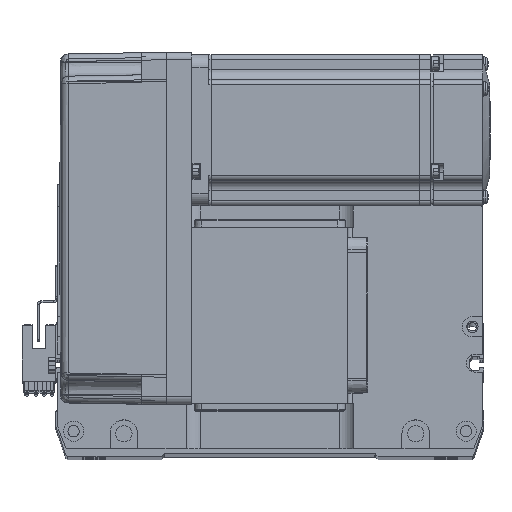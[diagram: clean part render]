
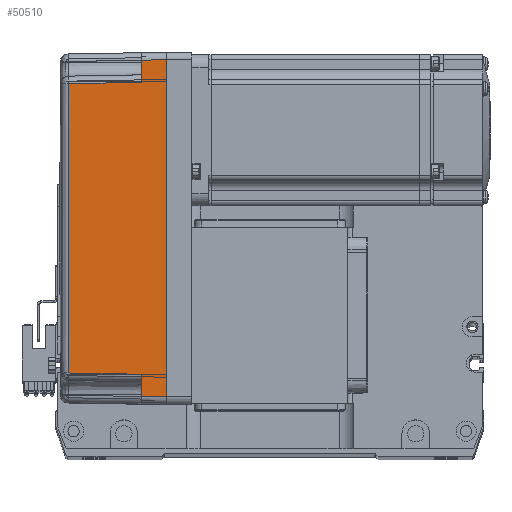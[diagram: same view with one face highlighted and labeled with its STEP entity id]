
A CAD part, top view. The second image highlights one B-rep face of the part: STEP entity #50510.
In plain terms, the highlighted planar face has unit normal (-0.018, 0, 1) as drawn and (0, 1, 0.017) by its records, which use the part's own axes.
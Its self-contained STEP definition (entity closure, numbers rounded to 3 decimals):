
#58 = AXIS2_PLACEMENT_3D ( 'NONE', #12615, #13041, #37039 ) ;
#3185 = VECTOR ( 'NONE', #48105, 1000. ) ;
#4732 = ORIENTED_EDGE ( 'NONE', *, *, #22861, .T. ) ;
#5660 = CARTESIAN_POINT ( 'NONE',  ( 0., 36., 0. ) ) ;
#7235 = CARTESIAN_POINT ( 'NONE',  ( 67., 36., 0. ) ) ;
#7566 = EDGE_CURVE ( 'NONE', #50486, #42011, #24597, .T. ) ;
#8259 = VECTOR ( 'NONE', #19550, 1000. ) ;
#8613 = VERTEX_POINT ( 'NONE', #23812 ) ;
#9046 = LINE ( 'NONE', #57995, #8259 ) ;
#10376 = EDGE_CURVE ( 'NONE', #46458, #50486, #25945, .T. ) ;
#10467 = EDGE_CURVE ( 'NONE', #8613, #59792, #24469, .T. ) ;
#10768 = VERTEX_POINT ( 'NONE', #13344 ) ;
#12140 = VECTOR ( 'NONE', #54193, 1000. ) ;
#12615 = CARTESIAN_POINT ( 'NONE',  ( 70., 36., 0. ) ) ;
#13041 = DIRECTION ( 'NONE',  ( 0., 1., 0.017 ) ) ;
#13344 = CARTESIAN_POINT ( 'NONE',  ( 58., 35.825, 10. ) ) ;
#13990 = EDGE_CURVE ( 'NONE', #10768, #47077, #33847, .T. ) ;
#19188 = ORIENTED_EDGE ( 'NONE', *, *, #10376, .T. ) ;
#19550 = DIRECTION ( 'NONE',  ( 0.017, 0.017, -1. ) ) ;
#20210 = CARTESIAN_POINT ( 'NONE',  ( 57.495, 35.32, 38.985 ) ) ;
#20670 = CARTESIAN_POINT ( 'NONE',  ( 70., 35.825, 10. ) ) ;
#21000 = LINE ( 'NONE', #41825, #48691 ) ;
#22754 = DIRECTION ( 'NONE',  ( -0.017, -0.017, 1. ) ) ;
#22861 = EDGE_CURVE ( 'NONE', #42011, #10768, #9046, .T. ) ;
#23812 = CARTESIAN_POINT ( 'NONE',  ( -67., 36., 0. ) ) ;
#24469 = LINE ( 'NONE', #5660, #62121 ) ;
#24597 = B_SPLINE_CURVE_WITH_KNOTS ( 'NONE', 3,
 ( #36205, #45834, #55351, #50677 ),
 .UNSPECIFIED., .F., .F.,
 ( 4, 4 ),
 ( 0., 1. ),
 .UNSPECIFIED. ) ;
#24699 = CARTESIAN_POINT ( 'NONE',  ( 66.826, 35.825, 10. ) ) ;
#25074 = EDGE_LOOP ( 'NONE', ( #61209, #31118, #19188, #35662, #4732, #37002, #34031, #41957 ) ) ;
#25945 = LINE ( 'NONE', #52933, #48500 ) ;
#26420 = LINE ( 'NONE', #35098, #12140 ) ;
#29280 = EDGE_CURVE ( 'NONE', #8613, #35644, #35478, .T. ) ;
#29604 = CARTESIAN_POINT ( 'NONE',  ( -67., 36., 0. ) ) ;
#29633 = DIRECTION ( 'NONE',  ( 1., 0., 0. ) ) ;
#31118 = ORIENTED_EDGE ( 'NONE', *, *, #34661, .T. ) ;
#31482 = CARTESIAN_POINT ( 'NONE',  ( -58., 35.825, 10. ) ) ;
#31556 = VECTOR ( 'NONE', #29633, 1000. ) ;
#31738 = CARTESIAN_POINT ( 'NONE',  ( -57.495, 35.32, 38.985 ) ) ;
#32049 = EDGE_CURVE ( 'NONE', #59792, #47077, #21000, .T. ) ;
#33847 = LINE ( 'NONE', #20670, #31556 ) ;
#34031 = ORIENTED_EDGE ( 'NONE', *, *, #32049, .F. ) ;
#34661 = EDGE_CURVE ( 'NONE', #35644, #46458, #26420, .T. ) ;
#35098 = CARTESIAN_POINT ( 'NONE',  ( 70., 35.825, 10. ) ) ;
#35478 = LINE ( 'NONE', #29604, #3185 ) ;
#35644 = VERTEX_POINT ( 'NONE', #53019 ) ;
#35662 = ORIENTED_EDGE ( 'NONE', *, *, #7566, .T. ) ;
#36205 = CARTESIAN_POINT ( 'NONE',  ( -57.495, 35.32, 38.985 ) ) ;
#37002 = ORIENTED_EDGE ( 'NONE', *, *, #13990, .T. ) ;
#37039 = DIRECTION ( 'NONE',  ( 0., -0.017, 1. ) ) ;
#41825 = CARTESIAN_POINT ( 'NONE',  ( 67.001, 36.001, -0.052 ) ) ;
#41957 = ORIENTED_EDGE ( 'NONE', *, *, #10467, .F. ) ;
#42011 = VERTEX_POINT ( 'NONE', #20210 ) ;
#45834 = CARTESIAN_POINT ( 'NONE',  ( -19.165, 35.316, 39.181 ) ) ;
#46458 = VERTEX_POINT ( 'NONE', #31482 ) ;
#46653 = PLANE ( 'NONE',  #58 ) ;
#47077 = VERTEX_POINT ( 'NONE', #24699 ) ;
#48105 = DIRECTION ( 'NONE',  ( 0.017, -0.017, 1. ) ) ;
#48268 = DIRECTION ( 'NONE',  ( 0.017, -0.017, 1. ) ) ;
#48500 = VECTOR ( 'NONE', #48268, 1000. ) ;
#48691 = VECTOR ( 'NONE', #22754, 1000. ) ;
#50486 = VERTEX_POINT ( 'NONE', #31738 ) ;
#50510 = ADVANCED_FACE ( 'NONE', ( #53315 ), #46653, .T. ) ;
#50677 = CARTESIAN_POINT ( 'NONE',  ( 57.495, 35.32, 38.985 ) ) ;
#52933 = CARTESIAN_POINT ( 'NONE',  ( -58., 35.825, 10. ) ) ;
#53019 = CARTESIAN_POINT ( 'NONE',  ( -66.826, 35.825, 10. ) ) ;
#53140 = DIRECTION ( 'NONE',  ( 1., 0., 0. ) ) ;
#53315 = FACE_OUTER_BOUND ( 'NONE', #25074, .T. ) ;
#54193 = DIRECTION ( 'NONE',  ( 1., 0., 0. ) ) ;
#55351 = CARTESIAN_POINT ( 'NONE',  ( 19.165, 35.316, 39.181 ) ) ;
#57995 = CARTESIAN_POINT ( 'NONE',  ( 57.495, 35.32, 38.985 ) ) ;
#59792 = VERTEX_POINT ( 'NONE', #7235 ) ;
#61209 = ORIENTED_EDGE ( 'NONE', *, *, #29280, .T. ) ;
#62121 = VECTOR ( 'NONE', #53140, 1000. ) ;
